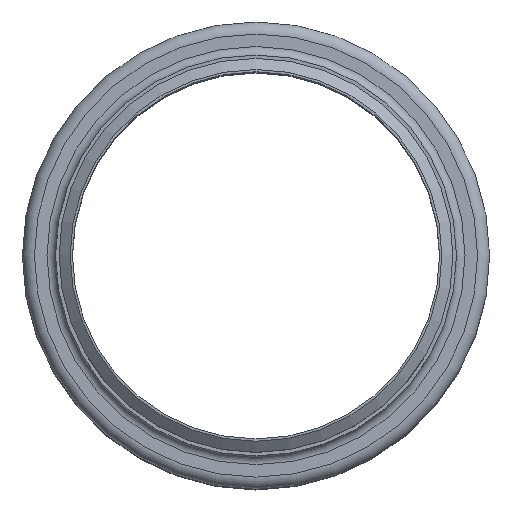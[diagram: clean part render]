
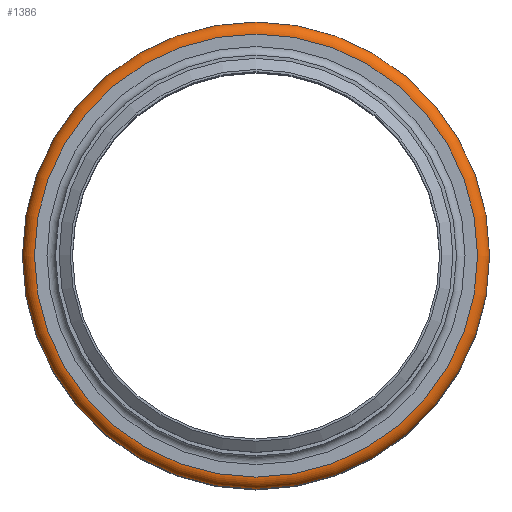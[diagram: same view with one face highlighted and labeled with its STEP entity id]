
A CAD part, top view. The second image highlights one B-rep face of the part: STEP entity #1386.
In plain terms, the highlighted toroidal (fillet/blend) face has major radius 153.562 mm and minor radius 8.363 mm.
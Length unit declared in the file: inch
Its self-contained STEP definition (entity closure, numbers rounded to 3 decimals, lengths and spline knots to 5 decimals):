
#104=TOROIDAL_SURFACE('',#1687,6.04575,0.32925);
#257=FACE_OUTER_BOUND('',#417,.T.);
#417=EDGE_LOOP('',(#1170,#1171,#1172,#1173));
#585=CIRCLE('',#1686,6.04575);
#586=CIRCLE('',#1688,6.04575);
#587=CIRCLE('',#1689,0.32925);
#704=VERTEX_POINT('',#2635);
#705=VERTEX_POINT('',#2638);
#863=EDGE_CURVE('',#704,#704,#585,.T.);
#864=EDGE_CURVE('',#705,#705,#586,.T.);
#865=EDGE_CURVE('',#705,#704,#587,.T.);
#1170=ORIENTED_EDGE('',*,*,#864,.F.);
#1171=ORIENTED_EDGE('',*,*,#865,.T.);
#1172=ORIENTED_EDGE('',*,*,#863,.T.);
#1173=ORIENTED_EDGE('',*,*,#865,.F.);
#1386=ADVANCED_FACE('',(#257),#104,.T.);
#1686=AXIS2_PLACEMENT_3D('',#2636,#2201,#2202);
#1687=AXIS2_PLACEMENT_3D('',#2637,#2203,#2204);
#1688=AXIS2_PLACEMENT_3D('',#2639,#2205,#2206);
#1689=AXIS2_PLACEMENT_3D('',#2640,#2207,#2208);
#2201=DIRECTION('center_axis',(0.,0.,-1.));
#2202=DIRECTION('ref_axis',(1.,0.,0.));
#2203=DIRECTION('center_axis',(0.,0.,-1.));
#2204=DIRECTION('ref_axis',(-1.,0.,0.));
#2205=DIRECTION('center_axis',(0.,0.,-1.));
#2206=DIRECTION('ref_axis',(1.,0.,0.));
#2207=DIRECTION('center_axis',(0.,-1.,0.));
#2208=DIRECTION('ref_axis',(1.,0.,0.));
#2635=CARTESIAN_POINT('',(6.04575,0.,-0.23325));
#2636=CARTESIAN_POINT('Origin',(0.,0.,-0.23325));
#2637=CARTESIAN_POINT('Origin',(0.,0.,-0.5625));
#2638=CARTESIAN_POINT('',(6.04575,0.,-0.89175));
#2639=CARTESIAN_POINT('Origin',(0.,0.,-0.89175));
#2640=CARTESIAN_POINT('Origin',(6.04575,0.,-0.5625));
